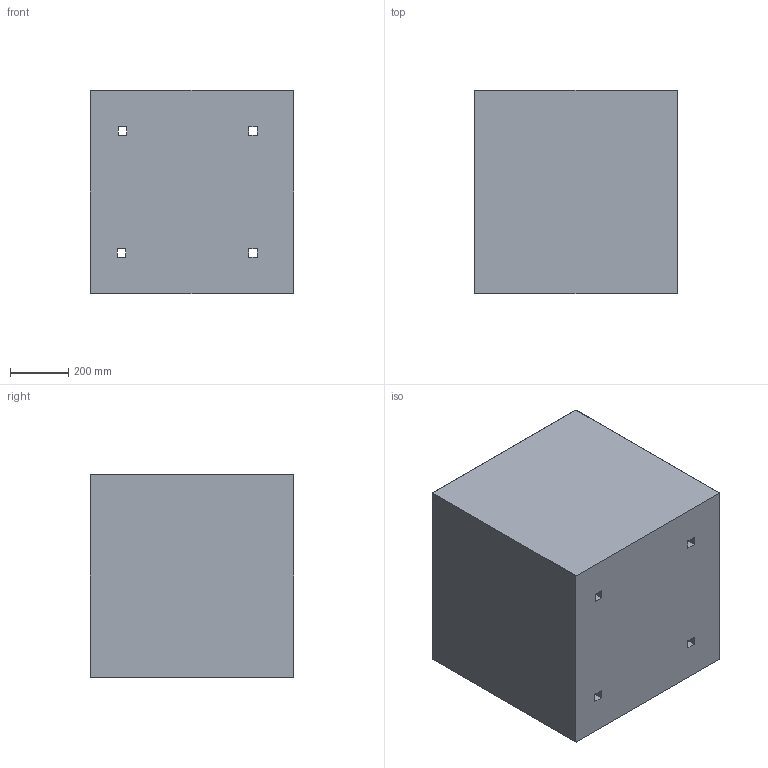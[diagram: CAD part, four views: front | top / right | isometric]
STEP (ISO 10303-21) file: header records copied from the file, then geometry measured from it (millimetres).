
FILE_DESCRIPTION(/* description */ (''),/* implementation_level */ '2;1');
FILE_NAME(/* name */ 'C:\Mac\Home\Desktop\btnv\inventor\cubo707070\donica betonowa Cubo 70x70x70cm.stp',/* time_stamp */ '2025-11-10T22:25:31+01:00',/* author */ ('dwasik'),/* organization */ (''),/* preprocessor_version */ 'ST-DEVELOPER v15.6',/* originating_system */ 'Autodesk Inventor 2015',/* authorisation */ '');
FILE_SCHEMA (('AUTOMOTIVE_DESIGN { 1 0 10303 214 3 1 1 }'));
Length unit declared in the file: millimetre
Products named in the file (1): Part1
Bounding box: 700 x 700 x 700 mm (x, y, z)
Volume: 108916973.7 mm3; surface area: 4534030 mm2
Topology: 5 solids, 5 shells, 51 faces, 108 edges, 68 vertices
Faces by surface type: plane 35, cylinder 12, sphere 4
Full cylindrical faces by diameter (mm): 25 x4
Entity records: 1366 total; most frequent: DIRECTION 232, CARTESIAN_POINT 224, ORIENTED_EDGE 208, EDGE_CURVE 104, LINE 80, VECTOR 80, AXIS2_PLACEMENT_3D 76, VERTEX_POINT 68
